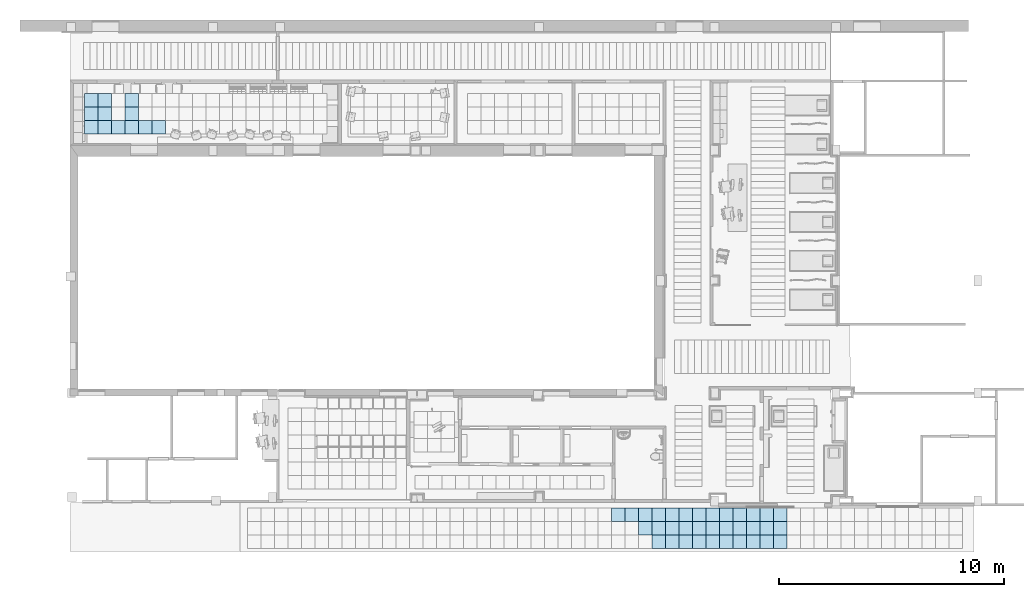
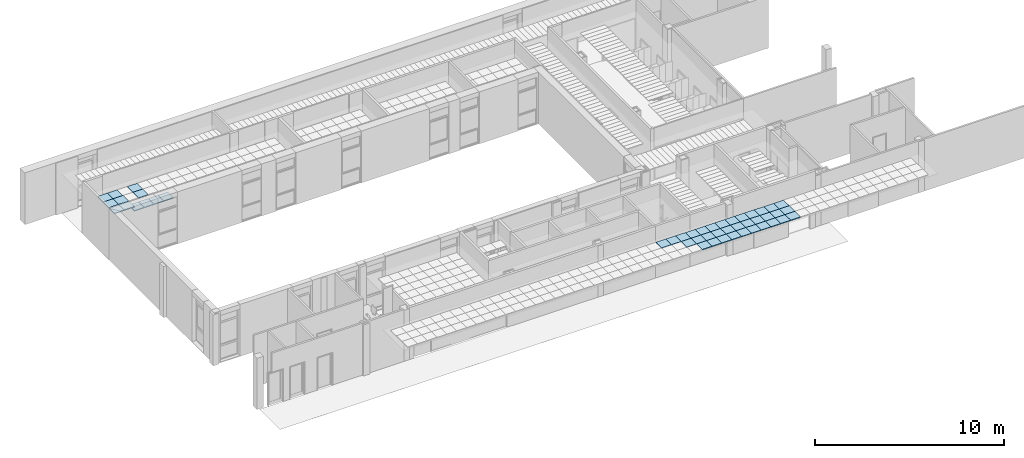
# One storey, part 17 of 68: 46 slabs.
"""IFC2X3 building model written with IfcOpenShell, lengths in millimetres."""

from ifc_helpers import new_model, entity, si_unit, converted_unit, derived_unit, money_unit, direction, frame, origin_with_axes, place, context, subcontext, project, spatial, polyline, outline, extrude, material, layer, layer_set, layer_usage, type_object, element, save


model = new_model("IFC2X3")

# Units and contexts
model_context = context("Model", 3, precision=0.01, world=origin_with_axes(), true_north=direction((0.0, 1.0)))
body_context = subcontext(model_context, "Body", "Model", "MODEL_VIEW")
ifc_project = project(units=[si_unit("LENGTHUNIT", "METRE", prefix="MILLI"), si_unit("AREAUNIT", "SQUARE_METRE"), si_unit("VOLUMEUNIT", "CUBIC_METRE"), converted_unit("PLANEANGLEUNIT", "DEGREE", entity("IfcPlaneAngleMeasure", 0.0174532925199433), si_unit("PLANEANGLEUNIT", "RADIAN"), dimensions=[0, 0, 0, 0, 0, 0, 0]), money_unit("USD"), converted_unit("TIMEUNIT", "Year", entity("IfcTimeMeasure", 31557600.0), si_unit("TIMEUNIT", "SECOND"), dimensions=[0, 0, 1, 0, 0, 0, 0]), si_unit("MASSUNIT", "GRAM", prefix="KILO"), si_unit("THERMODYNAMICTEMPERATUREUNIT", "DEGREE_CELSIUS"), si_unit("LUMINOUSINTENSITYUNIT", "LUMEN"), si_unit("ENERGYUNIT", "JOULE", prefix="MEGA"), derived_unit("THERMALCONDUCTANCEUNIT", [(si_unit("POWERUNIT", "WATT"), 1), (si_unit("LENGTHUNIT", "METRE"), -1), (si_unit("THERMODYNAMICTEMPERATUREUNIT", "KELVIN"), -1)]), derived_unit("SPECIFICHEATCAPACITYUNIT", [(si_unit("ENERGYUNIT", "JOULE"), 1), (si_unit("MASSUNIT", "GRAM", prefix="KILO"), -1), (si_unit("THERMODYNAMICTEMPERATUREUNIT", "KELVIN"), -1)]), derived_unit("MASSDENSITYUNIT", [(si_unit("MASSUNIT", "GRAM", prefix="KILO"), 1), (si_unit("VOLUMEUNIT", "CUBIC_METRE"), -1)])], contexts=[model_context])

# Site, building, storey
site_placement = place(None, origin_with_axes())
site = spatial("IfcSite", under=ifc_project, at=site_placement, Name="Sitio", CompositionType="ELEMENT")
building_placement = place(site_placement, origin_with_axes())
building = spatial("IfcBuilding", under=site, at=building_placement, Name="Construcción", CompositionType="ELEMENT")
storey_placement = place(building_placement, origin_with_axes())
storey = spatial("IfcBuildingStorey", under=building, at=storey_placement, Name="PLANTA 1ª", CompositionType="ELEMENT", Elevation=0.0)

# Slabs
ifc_material = material(Name="ARQ_CE217_Armstrong 60x60")
ifc_layer = layer(ifc_material, 50.0, ventilated="UNKNOWN")
ifc_layer_set = layer_set([ifc_layer], Name="ARQ_CE217_Armstrong 60x60 50")
ifc_layer_usage_1 = layer_usage(ifc_layer_set, "AXIS3", "NEGATIVE", 50.0)
slab_type = type_object("IfcSlabType", Name="ARQ_CE217_Armstrong 60x60 50", PredefinedType="NOTDEFINED")
slab_1_placement = place(storey_placement, frame((-25020.63976804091, -687.0613838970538, 2250.0), z_axis=(0.0, 0.0, 1.0), x_axis=(1.0, 0.0, 0.0)))
element("IfcSlab", 1, at=slab_1_placement, inside=storey, type_object=slab_type, material=ifc_layer_usage_1, Name="SLA - 026", PredefinedType="NOTDEFINED", context=body_context, shape_type="SweptSolid", body=[
    extrude(outline(polyline([(0.0, 0.0), (600.000000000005, 0.0), (600.000000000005, 600.0000000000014), (0.0, 600.0000000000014), (0.0, 0.0)])), frame((0.0, 0.0, -50.0), z_axis=(0.0, 0.0, 1.0), x_axis=(1.0, 0.0, 0.0)), (0.0, 0.0, 1.0), 50.0),
])
ifc_layer_usage_2 = layer_usage(ifc_layer_set, "AXIS3", "NEGATIVE", 50.0)
slab_2_placement = place(storey_placement, frame((-24420.6397680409, -687.0613838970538, 2250.0), z_axis=(0.0, 0.0, 1.0), x_axis=(1.0, 0.0, 0.0)))
element("IfcSlab", 2, at=slab_2_placement, inside=storey, type_object=slab_type, material=ifc_layer_usage_2, Name="SLA - 026", PredefinedType="NOTDEFINED", context=body_context, shape_type="SweptSolid", body=[
    extrude(outline(polyline([(0.0, 0.0), (599.9999999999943, 0.0), (599.9999999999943, 600.0000000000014), (0.0, 600.0000000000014), (0.0, 0.0)])), frame((0.0, 0.0, -50.0), z_axis=(0.0, 0.0, 1.0), x_axis=(1.0, 0.0, 0.0)), (0.0, 0.0, 1.0), 50.0),
])
ifc_layer_usage_3 = layer_usage(ifc_layer_set, "AXIS3", "NEGATIVE", 50.0)
slab_3_placement = place(storey_placement, frame((-25620.63976804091, -687.0613838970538, 2250.0), z_axis=(0.0, 0.0, 1.0), x_axis=(1.0, 0.0, 0.0)))
element("IfcSlab", 3, at=slab_3_placement, inside=storey, type_object=slab_type, material=ifc_layer_usage_3, Name="SLA - 026", PredefinedType="NOTDEFINED", context=body_context, shape_type="SweptSolid", body=[
    extrude(outline(polyline([(0.0, 0.0), (600.0000000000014, 0.0), (600.0000000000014, 600.0000000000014), (0.0, 600.0000000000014), (0.0, 0.0)])), frame((0.0, 0.0, -50.0), z_axis=(0.0, 0.0, 1.0), x_axis=(1.0, 0.0, 0.0)), (0.0, 0.0, 1.0), 50.0),
])
ifc_layer_usage_4 = layer_usage(ifc_layer_set, "AXIS3", "NEGATIVE", 50.0)
slab_4_placement = place(storey_placement, frame((-25620.63976804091, 512.938616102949, 2500.0), z_axis=(0.0, 0.0, 1.0), x_axis=(1.0, 0.0, 0.0)))
element("IfcSlab", 4, at=slab_4_placement, inside=storey, type_object=slab_type, material=ifc_layer_usage_4, Name="SLA - 026", PredefinedType="NOTDEFINED", context=body_context, shape_type="SweptSolid", body=[
    extrude(outline(polyline([(0.0, 0.0), (600.0000000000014, 0.0), (600.0000000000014, 600.0000000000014), (0.0, 600.0000000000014), (0.0, 0.0)])), frame((0.0, 0.0, -50.0), z_axis=(0.0, 0.0, 1.0), x_axis=(1.0, 0.0, 0.0)), (0.0, 0.0, 1.0), 50.0),
])
ifc_layer_usage_5 = layer_usage(ifc_layer_set, "AXIS3", "NEGATIVE", 50.0)
slab_5_placement = place(storey_placement, frame((-25620.63976804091, -87.06138389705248, 2500.0), z_axis=(0.0, 0.0, 1.0), x_axis=(1.0, 0.0, 0.0)))
element("IfcSlab", 5, at=slab_5_placement, inside=storey, type_object=slab_type, material=ifc_layer_usage_5, Name="SLA - 026", PredefinedType="NOTDEFINED", context=body_context, shape_type="SweptSolid", body=[
    extrude(outline(polyline([(0.0, 0.0), (600.0000000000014, 0.0), (600.0000000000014, 600.0000000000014), (0.0, 600.0000000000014), (0.0, 0.0)])), frame((0.0, 0.0, -50.0), z_axis=(0.0, 0.0, 1.0), x_axis=(1.0, 0.0, 0.0)), (0.0, 0.0, 1.0), 50.0),
])
ifc_layer_usage_6 = layer_usage(ifc_layer_set, "AXIS3", "NEGATIVE", 50.0)
slab_6_placement = place(storey_placement, frame((-26820.6397680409, -687.0613838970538, 2500.0), z_axis=(0.0, 0.0, 1.0), x_axis=(1.0, 0.0, 0.0)))
element("IfcSlab", 6, at=slab_6_placement, inside=storey, type_object=slab_type, material=ifc_layer_usage_6, Name="SLA - 026", PredefinedType="NOTDEFINED", context=body_context, shape_type="SweptSolid", body=[
    extrude(outline(polyline([(0.0, 0.0), (600.0000000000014, 0.0), (600.0000000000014, 600.0000000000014), (0.0, 600.0000000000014), (0.0, 0.0)])), frame((0.0, 0.0, -50.0), z_axis=(0.0, 0.0, 1.0), x_axis=(1.0, 0.0, 0.0)), (0.0, 0.0, 1.0), 50.0),
])
ifc_layer_usage_7 = layer_usage(ifc_layer_set, "AXIS3", "NEGATIVE", 50.0)
slab_7_placement = place(storey_placement, frame((-27420.6397680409, -87.06138389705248, 2500.0), z_axis=(0.0, 0.0, 1.0), x_axis=(1.0, 0.0, 0.0)))
element("IfcSlab", 7, at=slab_7_placement, inside=storey, type_object=slab_type, material=ifc_layer_usage_7, Name="SLA - 026", PredefinedType="NOTDEFINED", context=body_context, shape_type="SweptSolid", body=[
    extrude(outline(polyline([(0.0, 0.0), (600.0000000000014, 0.0), (600.0000000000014, 600.0000000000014), (0.0, 600.0000000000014), (0.0, 0.0)])), frame((0.0, 0.0, -50.0), z_axis=(0.0, 0.0, 1.0), x_axis=(1.0, 0.0, 0.0)), (0.0, 0.0, 1.0), 50.0),
])
ifc_layer_usage_8 = layer_usage(ifc_layer_set, "AXIS3", "NEGATIVE", 50.0)
slab_8_placement = place(storey_placement, frame((-26820.6397680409, -87.06138389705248, 2500.0), z_axis=(0.0, 0.0, 1.0), x_axis=(1.0, 0.0, 0.0)))
element("IfcSlab", 8, at=slab_8_placement, inside=storey, type_object=slab_type, material=ifc_layer_usage_8, Name="SLA - 026", PredefinedType="NOTDEFINED", context=body_context, shape_type="SweptSolid", body=[
    extrude(outline(polyline([(0.0, 0.0), (600.0000000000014, 0.0), (600.0000000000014, 600.0000000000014), (0.0, 600.0000000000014), (0.0, 0.0)])), frame((0.0, 0.0, -50.0), z_axis=(0.0, 0.0, 1.0), x_axis=(1.0, 0.0, 0.0)), (0.0, 0.0, 1.0), 50.0),
])
ifc_layer_usage_9 = layer_usage(ifc_layer_set, "AXIS3", "NEGATIVE", 50.0)
slab_9_placement = place(storey_placement, frame((-27420.6397680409, 512.938616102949, 2500.0), z_axis=(0.0, 0.0, 1.0), x_axis=(1.0, 0.0, 0.0)))
element("IfcSlab", 9, at=slab_9_placement, inside=storey, type_object=slab_type, material=ifc_layer_usage_9, Name="SLA - 026", PredefinedType="NOTDEFINED", context=body_context, shape_type="SweptSolid", body=[
    extrude(outline(polyline([(0.0, 0.0), (600.0000000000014, 0.0), (600.0000000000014, 600.0000000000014), (0.0, 600.0000000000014), (0.0, 0.0)])), frame((0.0, 0.0, -50.0), z_axis=(0.0, 0.0, 1.0), x_axis=(1.0, 0.0, 0.0)), (0.0, 0.0, 1.0), 50.0),
])
ifc_layer_usage_10 = layer_usage(ifc_layer_set, "AXIS3", "NEGATIVE", 50.0)
slab_10_placement = place(storey_placement, frame((-27420.6397680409, -687.0613838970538, 2500.0), z_axis=(0.0, 0.0, 1.0), x_axis=(1.0, 0.0, 0.0)))
element("IfcSlab", 10, at=slab_10_placement, inside=storey, type_object=slab_type, material=ifc_layer_usage_10, Name="SLA - 026", PredefinedType="NOTDEFINED", context=body_context, shape_type="SweptSolid", body=[
    extrude(outline(polyline([(0.0, 0.0), (600.0000000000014, 0.0), (600.0000000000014, 600.0000000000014), (0.0, 600.0000000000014), (0.0, 0.0)])), frame((0.0, 0.0, -50.0), z_axis=(0.0, 0.0, 1.0), x_axis=(1.0, 0.0, 0.0)), (0.0, 0.0, 1.0), 50.0),
])
ifc_layer_usage_11 = layer_usage(ifc_layer_set, "AXIS3", "NEGATIVE", 50.0)
slab_11_placement = place(storey_placement, frame((-26220.6397680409, -687.0613838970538, 2250.0), z_axis=(0.0, 0.0, 1.0), x_axis=(1.0, 0.0, 0.0)))
element("IfcSlab", 11, at=slab_11_placement, inside=storey, type_object=slab_type, material=ifc_layer_usage_11, Name="SLA - 026", PredefinedType="NOTDEFINED", context=body_context, shape_type="SweptSolid", body=[
    extrude(outline(polyline([(0.0, 0.0), (599.9999999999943, 0.0), (599.9999999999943, 600.0000000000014), (0.0, 600.0000000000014), (0.0, 0.0)])), frame((0.0, 0.0, -50.0), z_axis=(0.0, 0.0, 1.0), x_axis=(1.0, 0.0, 0.0)), (0.0, 0.0, 1.0), 50.0),
])
ifc_layer_usage_12 = layer_usage(ifc_layer_set, "AXIS3", "NEGATIVE", 50.0)
slab_12_placement = place(storey_placement, frame((-26820.6397680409, 512.938616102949, 2500.0), z_axis=(0.0, 0.0, 1.0), x_axis=(1.0, 0.0, 0.0)))
element("IfcSlab", 12, at=slab_12_placement, inside=storey, type_object=slab_type, material=ifc_layer_usage_12, Name="SLA - 026", PredefinedType="NOTDEFINED", context=body_context, shape_type="SweptSolid", body=[
    extrude(outline(polyline([(0.0, 0.0), (600.0000000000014, 0.0), (600.0000000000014, 600.0000000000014), (0.0, 600.0000000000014), (0.0, 0.0)])), frame((0.0, 0.0, -50.0), z_axis=(0.0, 0.0, 1.0), x_axis=(1.0, 0.0, 0.0)), (0.0, 0.0, 1.0), 50.0),
])
ifc_layer_usage_13 = layer_usage(ifc_layer_set, "AXIS3", "NEGATIVE", 50.0)
slab_13_placement = place(storey_placement, frame((-3969.703283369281, -17921.97576450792, 2500.0), z_axis=(0.0, 0.0, 1.0), x_axis=(1.0, 0.0, 0.0)))
element("IfcSlab", 13, at=slab_13_placement, inside=storey, type_object=slab_type, material=ifc_layer_usage_13, Name="SLA - 026", PredefinedType="NOTDEFINED", context=body_context, shape_type="SweptSolid", body=[
    extrude(outline(polyline([(0.0, 0.0), (600.0000000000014, 0.0), (600.0000000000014, 600.0000000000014), (0.0, 600.0000000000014), (0.0, 0.0)])), frame((0.0, 0.0, -50.0), z_axis=(0.0, 0.0, 1.0), x_axis=(1.0, 0.0, 0.0)), (0.0, 0.0, 1.0), 50.0),
])
ifc_layer_usage_14 = layer_usage(ifc_layer_set, "AXIS3", "NEGATIVE", 50.0)
slab_14_placement = place(storey_placement, frame((-3369.70328336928, -17921.97576450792, 2500.0), z_axis=(0.0, 0.0, 1.0), x_axis=(1.0, 0.0, 0.0)))
element("IfcSlab", 14, at=slab_14_placement, inside=storey, type_object=slab_type, material=ifc_layer_usage_14, Name="SLA - 026", PredefinedType="NOTDEFINED", context=body_context, shape_type="SweptSolid", body=[
    extrude(outline(polyline([(0.0, 0.0), (600.0000000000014, 0.0), (600.0000000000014, 600.0000000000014), (0.0, 600.0000000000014), (0.0, 0.0)])), frame((0.0, 0.0, -50.0), z_axis=(0.0, 0.0, 1.0), x_axis=(1.0, 0.0, 0.0)), (0.0, 0.0, 1.0), 50.0),
])
ifc_layer_usage_15 = layer_usage(ifc_layer_set, "AXIS3", "NEGATIVE", 50.0)
slab_15_placement = place(storey_placement, frame((-2769.703283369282, -18521.97576450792, 2500.0), z_axis=(0.0, 0.0, 1.0), x_axis=(1.0, 0.0, 0.0)))
element("IfcSlab", 15, at=slab_15_placement, inside=storey, type_object=slab_type, material=ifc_layer_usage_15, Name="SLA - 026", PredefinedType="NOTDEFINED", context=body_context, shape_type="SweptSolid", body=[
    extrude(outline(polyline([(0.0, 0.0), (600.0000000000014, 0.0), (600.0000000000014, 600.0000000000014), (0.0, 600.0000000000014), (0.0, 0.0)])), frame((0.0, 0.0, -50.0), z_axis=(0.0, 0.0, 1.0), x_axis=(1.0, 0.0, 0.0)), (0.0, 0.0, 1.0), 50.0),
])
ifc_layer_usage_16 = layer_usage(ifc_layer_set, "AXIS3", "NEGATIVE", 50.0)
slab_16_placement = place(storey_placement, frame((-2169.70328336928, -19121.97576450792, 2500.0), z_axis=(0.0, 0.0, 1.0), x_axis=(1.0, 0.0, 0.0)))
element("IfcSlab", 16, at=slab_16_placement, inside=storey, type_object=slab_type, material=ifc_layer_usage_16, Name="SLA - 026", PredefinedType="NOTDEFINED", context=body_context, shape_type="SweptSolid", body=[
    extrude(outline(polyline([(0.0, 0.0), (600.0000000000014, 0.0), (600.0000000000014, 600.0000000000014), (0.0, 600.0000000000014), (0.0, 0.0)])), frame((0.0, 0.0, -50.0), z_axis=(0.0, 0.0, 1.0), x_axis=(1.0, 0.0, 0.0)), (0.0, 0.0, 1.0), 50.0),
])
ifc_layer_usage_17 = layer_usage(ifc_layer_set, "AXIS3", "NEGATIVE", 50.0)
slab_17_placement = place(storey_placement, frame((-2169.70328336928, -18521.97576450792, 2500.0), z_axis=(0.0, 0.0, 1.0), x_axis=(1.0, 0.0, 0.0)))
element("IfcSlab", 17, at=slab_17_placement, inside=storey, type_object=slab_type, material=ifc_layer_usage_17, Name="SLA - 026", PredefinedType="NOTDEFINED", context=body_context, shape_type="SweptSolid", body=[
    extrude(outline(polyline([(0.0, 0.0), (600.0000000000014, 0.0), (600.0000000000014, 600.0000000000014), (0.0, 600.0000000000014), (0.0, 0.0)])), frame((0.0, 0.0, -50.0), z_axis=(0.0, 0.0, 1.0), x_axis=(1.0, 0.0, 0.0)), (0.0, 0.0, 1.0), 50.0),
])
ifc_layer_usage_18 = layer_usage(ifc_layer_set, "AXIS3", "NEGATIVE", 50.0)
slab_18_placement = place(storey_placement, frame((-2169.70328336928, -17921.97576450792, 2500.0), z_axis=(0.0, 0.0, 1.0), x_axis=(1.0, 0.0, 0.0)))
element("IfcSlab", 18, at=slab_18_placement, inside=storey, type_object=slab_type, material=ifc_layer_usage_18, Name="SLA - 026", PredefinedType="NOTDEFINED", context=body_context, shape_type="SweptSolid", body=[
    extrude(outline(polyline([(0.0, 0.0), (600.0000000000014, 0.0), (600.0000000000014, 600.0000000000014), (0.0, 600.0000000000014), (0.0, 0.0)])), frame((0.0, 0.0, -50.0), z_axis=(0.0, 0.0, 1.0), x_axis=(1.0, 0.0, 0.0)), (0.0, 0.0, 1.0), 50.0),
])
ifc_layer_usage_19 = layer_usage(ifc_layer_set, "AXIS3", "NEGATIVE", 50.0)
slab_19_placement = place(storey_placement, frame((-1569.703283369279, -19121.97576450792, 2500.0), z_axis=(0.0, 0.0, 1.0), x_axis=(1.0, 0.0, 0.0)))
element("IfcSlab", 19, at=slab_19_placement, inside=storey, type_object=slab_type, material=ifc_layer_usage_19, Name="SLA - 026", PredefinedType="NOTDEFINED", context=body_context, shape_type="SweptSolid", body=[
    extrude(outline(polyline([(0.0, 0.0), (600.0000000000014, 0.0), (600.0000000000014, 600.0000000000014), (0.0, 600.0000000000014), (0.0, 0.0)])), frame((0.0, 0.0, -50.0), z_axis=(0.0, 0.0, 1.0), x_axis=(1.0, 0.0, 0.0)), (0.0, 0.0, 1.0), 50.0),
])
ifc_layer_usage_20 = layer_usage(ifc_layer_set, "AXIS3", "NEGATIVE", 50.0)
slab_20_placement = place(storey_placement, frame((-1569.703283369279, -18521.97576450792, 2500.0), z_axis=(0.0, 0.0, 1.0), x_axis=(1.0, 0.0, 0.0)))
element("IfcSlab", 20, at=slab_20_placement, inside=storey, type_object=slab_type, material=ifc_layer_usage_20, Name="SLA - 026", PredefinedType="NOTDEFINED", context=body_context, shape_type="SweptSolid", body=[
    extrude(outline(polyline([(0.0, 0.0), (600.0000000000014, 0.0), (600.0000000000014, 600.0000000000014), (0.0, 600.0000000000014), (0.0, 0.0)])), frame((0.0, 0.0, -50.0), z_axis=(0.0, 0.0, 1.0), x_axis=(1.0, 0.0, 0.0)), (0.0, 0.0, 1.0), 50.0),
])
ifc_layer_usage_21 = layer_usage(ifc_layer_set, "AXIS3", "NEGATIVE", 50.0)
slab_21_placement = place(storey_placement, frame((-1569.703283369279, -17921.97576450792, 2500.0), z_axis=(0.0, 0.0, 1.0), x_axis=(1.0, 0.0, 0.0)))
element("IfcSlab", 21, at=slab_21_placement, inside=storey, type_object=slab_type, material=ifc_layer_usage_21, Name="SLA - 026", PredefinedType="NOTDEFINED", context=body_context, shape_type="SweptSolid", body=[
    extrude(outline(polyline([(0.0, 0.0), (600.0000000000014, 0.0), (600.0000000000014, 600.0000000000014), (0.0, 600.0000000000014), (0.0, 0.0)])), frame((0.0, 0.0, -50.0), z_axis=(0.0, 0.0, 1.0), x_axis=(1.0, 0.0, 0.0)), (0.0, 0.0, 1.0), 50.0),
])
ifc_layer_usage_22 = layer_usage(ifc_layer_set, "AXIS3", "NEGATIVE", 50.0)
slab_22_placement = place(storey_placement, frame((-969.7032833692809, -19121.97576450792, 2500.0), z_axis=(0.0, 0.0, 1.0), x_axis=(1.0, 0.0, 0.0)))
element("IfcSlab", 22, at=slab_22_placement, inside=storey, type_object=slab_type, material=ifc_layer_usage_22, Name="SLA - 026", PredefinedType="NOTDEFINED", context=body_context, shape_type="SweptSolid", body=[
    extrude(outline(polyline([(0.0, 0.0), (600.0000000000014, 0.0), (600.0000000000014, 600.0000000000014), (0.0, 600.0000000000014), (0.0, 0.0)])), frame((0.0, 0.0, -50.0), z_axis=(0.0, 0.0, 1.0), x_axis=(1.0, 0.0, 0.0)), (0.0, 0.0, 1.0), 50.0),
])
ifc_layer_usage_23 = layer_usage(ifc_layer_set, "AXIS3", "NEGATIVE", 50.0)
slab_23_placement = place(storey_placement, frame((-969.7032833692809, -18521.97576450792, 2500.0), z_axis=(0.0, 0.0, 1.0), x_axis=(1.0, 0.0, 0.0)))
element("IfcSlab", 23, at=slab_23_placement, inside=storey, type_object=slab_type, material=ifc_layer_usage_23, Name="SLA - 026", PredefinedType="NOTDEFINED", context=body_context, shape_type="SweptSolid", body=[
    extrude(outline(polyline([(0.0, 0.0), (600.0000000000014, 0.0), (600.0000000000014, 600.0000000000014), (0.0, 600.0000000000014), (0.0, 0.0)])), frame((0.0, 0.0, -50.0), z_axis=(0.0, 0.0, 1.0), x_axis=(1.0, 0.0, 0.0)), (0.0, 0.0, 1.0), 50.0),
])
ifc_layer_usage_24 = layer_usage(ifc_layer_set, "AXIS3", "NEGATIVE", 50.0)
slab_24_placement = place(storey_placement, frame((-969.7032833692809, -17921.97576450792, 2500.0), z_axis=(0.0, 0.0, 1.0), x_axis=(1.0, 0.0, 0.0)))
element("IfcSlab", 24, at=slab_24_placement, inside=storey, type_object=slab_type, material=ifc_layer_usage_24, Name="SLA - 026", PredefinedType="NOTDEFINED", context=body_context, shape_type="SweptSolid", body=[
    extrude(outline(polyline([(0.0, 0.0), (600.0000000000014, 0.0), (600.0000000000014, 600.0000000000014), (0.0, 600.0000000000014), (0.0, 0.0)])), frame((0.0, 0.0, -50.0), z_axis=(0.0, 0.0, 1.0), x_axis=(1.0, 0.0, 0.0)), (0.0, 0.0, 1.0), 50.0),
])
ifc_layer_usage_25 = layer_usage(ifc_layer_set, "AXIS3", "NEGATIVE", 50.0)
slab_25_placement = place(storey_placement, frame((-369.7032833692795, -19121.97576450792, 2500.0), z_axis=(0.0, 0.0, 1.0), x_axis=(1.0, 0.0, 0.0)))
element("IfcSlab", 25, at=slab_25_placement, inside=storey, type_object=slab_type, material=ifc_layer_usage_25, Name="SLA - 026", PredefinedType="NOTDEFINED", context=body_context, shape_type="SweptSolid", body=[
    extrude(outline(polyline([(0.0, 0.0), (600.0000000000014, 0.0), (600.0000000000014, 600.0000000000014), (0.0, 600.0000000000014), (0.0, 0.0)])), frame((0.0, 0.0, -50.0), z_axis=(0.0, 0.0, 1.0), x_axis=(1.0, 0.0, 0.0)), (0.0, 0.0, 1.0), 50.0),
])
ifc_layer_usage_26 = layer_usage(ifc_layer_set, "AXIS3", "NEGATIVE", 50.0)
slab_26_placement = place(storey_placement, frame((-369.7032833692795, -18521.97576450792, 2500.0), z_axis=(0.0, 0.0, 1.0), x_axis=(1.0, 0.0, 0.0)))
element("IfcSlab", 26, at=slab_26_placement, inside=storey, type_object=slab_type, material=ifc_layer_usage_26, Name="SLA - 026", PredefinedType="NOTDEFINED", context=body_context, shape_type="SweptSolid", body=[
    extrude(outline(polyline([(0.0, 0.0), (600.0000000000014, 0.0), (600.0000000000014, 600.0000000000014), (0.0, 600.0000000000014), (0.0, 0.0)])), frame((0.0, 0.0, -50.0), z_axis=(0.0, 0.0, 1.0), x_axis=(1.0, 0.0, 0.0)), (0.0, 0.0, 1.0), 50.0),
])
ifc_layer_usage_27 = layer_usage(ifc_layer_set, "AXIS3", "NEGATIVE", 50.0)
slab_27_placement = place(storey_placement, frame((-369.7032833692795, -17921.97576450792, 2500.0), z_axis=(0.0, 0.0, 1.0), x_axis=(1.0, 0.0, 0.0)))
element("IfcSlab", 27, at=slab_27_placement, inside=storey, type_object=slab_type, material=ifc_layer_usage_27, Name="SLA - 026", PredefinedType="NOTDEFINED", context=body_context, shape_type="SweptSolid", body=[
    extrude(outline(polyline([(0.0, 0.0), (600.0000000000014, 0.0), (600.0000000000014, 600.0000000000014), (0.0, 600.0000000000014), (0.0, 0.0)])), frame((0.0, 0.0, -50.0), z_axis=(0.0, 0.0, 1.0), x_axis=(1.0, 0.0, 0.0)), (0.0, 0.0, 1.0), 50.0),
])
ifc_layer_usage_28 = layer_usage(ifc_layer_set, "AXIS3", "NEGATIVE", 50.0)
slab_28_placement = place(storey_placement, frame((230.2967166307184, -19121.97576450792, 2500.0), z_axis=(0.0, 0.0, 1.0), x_axis=(1.0, 0.0, 0.0)))
element("IfcSlab", 28, at=slab_28_placement, inside=storey, type_object=slab_type, material=ifc_layer_usage_28, Name="SLA - 026", PredefinedType="NOTDEFINED", context=body_context, shape_type="SweptSolid", body=[
    extrude(outline(polyline([(0.0, 0.0), (600.0000000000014, 0.0), (600.0000000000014, 600.0000000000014), (0.0, 600.0000000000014), (0.0, 0.0)])), frame((0.0, 0.0, -50.0), z_axis=(0.0, 0.0, 1.0), x_axis=(1.0, 0.0, 0.0)), (0.0, 0.0, 1.0), 50.0),
])
ifc_layer_usage_29 = layer_usage(ifc_layer_set, "AXIS3", "NEGATIVE", 50.0)
slab_29_placement = place(storey_placement, frame((230.2967166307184, -18521.97576450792, 2500.0), z_axis=(0.0, 0.0, 1.0), x_axis=(1.0, 0.0, 0.0)))
element("IfcSlab", 29, at=slab_29_placement, inside=storey, type_object=slab_type, material=ifc_layer_usage_29, Name="SLA - 026", PredefinedType="NOTDEFINED", context=body_context, shape_type="SweptSolid", body=[
    extrude(outline(polyline([(0.0, 0.0), (600.0000000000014, 0.0), (600.0000000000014, 600.0000000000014), (0.0, 600.0000000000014), (0.0, 0.0)])), frame((0.0, 0.0, -50.0), z_axis=(0.0, 0.0, 1.0), x_axis=(1.0, 0.0, 0.0)), (0.0, 0.0, 1.0), 50.0),
])
ifc_layer_usage_30 = layer_usage(ifc_layer_set, "AXIS3", "NEGATIVE", 50.0)
slab_30_placement = place(storey_placement, frame((230.2967166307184, -17921.97576450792, 2500.0), z_axis=(0.0, 0.0, 1.0), x_axis=(1.0, 0.0, 0.0)))
element("IfcSlab", 30, at=slab_30_placement, inside=storey, type_object=slab_type, material=ifc_layer_usage_30, Name="SLA - 026", PredefinedType="NOTDEFINED", context=body_context, shape_type="SweptSolid", body=[
    extrude(outline(polyline([(0.0, 0.0), (600.0000000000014, 0.0), (600.0000000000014, 600.0000000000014), (0.0, 600.0000000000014), (0.0, 0.0)])), frame((0.0, 0.0, -50.0), z_axis=(0.0, 0.0, 1.0), x_axis=(1.0, 0.0, 0.0)), (0.0, 0.0, 1.0), 50.0),
])
ifc_layer_usage_31 = layer_usage(ifc_layer_set, "AXIS3", "NEGATIVE", 50.0)
slab_31_placement = place(storey_placement, frame((830.2967166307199, -19121.97576450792, 2500.0), z_axis=(0.0, 0.0, 1.0), x_axis=(1.0, 0.0, 0.0)))
element("IfcSlab", 31, at=slab_31_placement, inside=storey, type_object=slab_type, material=ifc_layer_usage_31, Name="SLA - 026", PredefinedType="NOTDEFINED", context=body_context, shape_type="SweptSolid", body=[
    extrude(outline(polyline([(0.0, 0.0), (600.0000000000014, 0.0), (600.0000000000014, 600.0000000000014), (0.0, 600.0000000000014), (0.0, 0.0)])), frame((0.0, 0.0, -50.0), z_axis=(0.0, 0.0, 1.0), x_axis=(1.0, 0.0, 0.0)), (0.0, 0.0, 1.0), 50.0),
])
ifc_layer_usage_32 = layer_usage(ifc_layer_set, "AXIS3", "NEGATIVE", 50.0)
slab_32_placement = place(storey_placement, frame((830.2967166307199, -18521.97576450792, 2500.0), z_axis=(0.0, 0.0, 1.0), x_axis=(1.0, 0.0, 0.0)))
element("IfcSlab", 32, at=slab_32_placement, inside=storey, type_object=slab_type, material=ifc_layer_usage_32, Name="SLA - 026", PredefinedType="NOTDEFINED", context=body_context, shape_type="SweptSolid", body=[
    extrude(outline(polyline([(0.0, 0.0), (600.0000000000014, 0.0), (600.0000000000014, 600.0000000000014), (0.0, 600.0000000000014), (0.0, 0.0)])), frame((0.0, 0.0, -50.0), z_axis=(0.0, 0.0, 1.0), x_axis=(1.0, 0.0, 0.0)), (0.0, 0.0, 1.0), 50.0),
])
ifc_layer_usage_33 = layer_usage(ifc_layer_set, "AXIS3", "NEGATIVE", 50.0)
slab_33_placement = place(storey_placement, frame((830.2967166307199, -17921.97576450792, 2500.0), z_axis=(0.0, 0.0, 1.0), x_axis=(1.0, 0.0, 0.0)))
element("IfcSlab", 33, at=slab_33_placement, inside=storey, type_object=slab_type, material=ifc_layer_usage_33, Name="SLA - 026", PredefinedType="NOTDEFINED", context=body_context, shape_type="SweptSolid", body=[
    extrude(outline(polyline([(0.0, 0.0), (600.0000000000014, 0.0), (600.0000000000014, 600.0000000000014), (0.0, 600.0000000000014), (0.0, 0.0)])), frame((0.0, 0.0, -50.0), z_axis=(0.0, 0.0, 1.0), x_axis=(1.0, 0.0, 0.0)), (0.0, 0.0, 1.0), 50.0),
])
ifc_layer_usage_34 = layer_usage(ifc_layer_set, "AXIS3", "NEGATIVE", 50.0)
slab_34_placement = place(storey_placement, frame((1430.296716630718, -19121.97576450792, 2500.0), z_axis=(0.0, 0.0, 1.0), x_axis=(1.0, 0.0, 0.0)))
element("IfcSlab", 34, at=slab_34_placement, inside=storey, type_object=slab_type, material=ifc_layer_usage_34, Name="SLA - 026", PredefinedType="NOTDEFINED", context=body_context, shape_type="SweptSolid", body=[
    extrude(outline(polyline([(0.0, 0.0), (600.0000000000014, 0.0), (600.0000000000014, 600.0000000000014), (0.0, 600.0000000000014), (0.0, 0.0)])), frame((0.0, 0.0, -50.0), z_axis=(0.0, 0.0, 1.0), x_axis=(1.0, 0.0, 0.0)), (0.0, 0.0, 1.0), 50.0),
])
ifc_layer_usage_35 = layer_usage(ifc_layer_set, "AXIS3", "NEGATIVE", 50.0)
slab_35_placement = place(storey_placement, frame((1430.296716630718, -18521.97576450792, 2500.0), z_axis=(0.0, 0.0, 1.0), x_axis=(1.0, 0.0, 0.0)))
element("IfcSlab", 35, at=slab_35_placement, inside=storey, type_object=slab_type, material=ifc_layer_usage_35, Name="SLA - 026", PredefinedType="NOTDEFINED", context=body_context, shape_type="SweptSolid", body=[
    extrude(outline(polyline([(0.0, 0.0), (600.0000000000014, 0.0), (600.0000000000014, 600.0000000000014), (0.0, 600.0000000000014), (0.0, 0.0)])), frame((0.0, 0.0, -50.0), z_axis=(0.0, 0.0, 1.0), x_axis=(1.0, 0.0, 0.0)), (0.0, 0.0, 1.0), 50.0),
])
ifc_layer_usage_36 = layer_usage(ifc_layer_set, "AXIS3", "NEGATIVE", 50.0)
slab_36_placement = place(storey_placement, frame((1430.296716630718, -17921.97576450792, 2500.0), z_axis=(0.0, 0.0, 1.0), x_axis=(1.0, 0.0, 0.0)))
element("IfcSlab", 36, at=slab_36_placement, inside=storey, type_object=slab_type, material=ifc_layer_usage_36, Name="SLA - 026", PredefinedType="NOTDEFINED", context=body_context, shape_type="SweptSolid", body=[
    extrude(outline(polyline([(0.0, 0.0), (600.0000000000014, 0.0), (600.0000000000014, 600.0000000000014), (0.0, 600.0000000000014), (0.0, 0.0)])), frame((0.0, 0.0, -50.0), z_axis=(0.0, 0.0, 1.0), x_axis=(1.0, 0.0, 0.0)), (0.0, 0.0, 1.0), 50.0),
])
ifc_layer_usage_37 = layer_usage(ifc_layer_set, "AXIS3", "NEGATIVE", 50.0)
slab_37_placement = place(storey_placement, frame((2030.296716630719, -19121.97576450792, 2500.0), z_axis=(0.0, 0.0, 1.0), x_axis=(1.0, 0.0, 0.0)))
element("IfcSlab", 37, at=slab_37_placement, inside=storey, type_object=slab_type, material=ifc_layer_usage_37, Name="SLA - 026", PredefinedType="NOTDEFINED", context=body_context, shape_type="SweptSolid", body=[
    extrude(outline(polyline([(0.0, 0.0), (600.0000000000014, 0.0), (600.0000000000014, 600.0000000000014), (0.0, 600.0000000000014), (0.0, 0.0)])), frame((0.0, 0.0, -50.0), z_axis=(0.0, 0.0, 1.0), x_axis=(1.0, 0.0, 0.0)), (0.0, 0.0, 1.0), 50.0),
])
ifc_layer_usage_38 = layer_usage(ifc_layer_set, "AXIS3", "NEGATIVE", 50.0)
slab_38_placement = place(storey_placement, frame((2030.296716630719, -18521.97576450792, 2500.0), z_axis=(0.0, 0.0, 1.0), x_axis=(1.0, 0.0, 0.0)))
element("IfcSlab", 38, at=slab_38_placement, inside=storey, type_object=slab_type, material=ifc_layer_usage_38, Name="SLA - 026", PredefinedType="NOTDEFINED", context=body_context, shape_type="SweptSolid", body=[
    extrude(outline(polyline([(0.0, 0.0), (600.0000000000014, 0.0), (600.0000000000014, 600.0000000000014), (0.0, 600.0000000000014), (0.0, 0.0)])), frame((0.0, 0.0, -50.0), z_axis=(0.0, 0.0, 1.0), x_axis=(1.0, 0.0, 0.0)), (0.0, 0.0, 1.0), 50.0),
])
ifc_layer_usage_39 = layer_usage(ifc_layer_set, "AXIS3", "NEGATIVE", 50.0)
slab_39_placement = place(storey_placement, frame((2030.296716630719, -17921.97576450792, 2500.0), z_axis=(0.0, 0.0, 1.0), x_axis=(1.0, 0.0, 0.0)))
element("IfcSlab", 39, at=slab_39_placement, inside=storey, type_object=slab_type, material=ifc_layer_usage_39, Name="SLA - 026", PredefinedType="NOTDEFINED", context=body_context, shape_type="SweptSolid", body=[
    extrude(outline(polyline([(0.0, 0.0), (600.0000000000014, 0.0), (600.0000000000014, 600.0000000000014), (0.0, 600.0000000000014), (0.0, 0.0)])), frame((0.0, 0.0, -50.0), z_axis=(0.0, 0.0, 1.0), x_axis=(1.0, 0.0, 0.0)), (0.0, 0.0, 1.0), 50.0),
])
ifc_layer_usage_40 = layer_usage(ifc_layer_set, "AXIS3", "NEGATIVE", 50.0)
slab_40_placement = place(storey_placement, frame((2630.29671663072, -19121.97576450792, 2500.0), z_axis=(0.0, 0.0, 1.0), x_axis=(1.0, 0.0, 0.0)))
element("IfcSlab", 40, at=slab_40_placement, inside=storey, type_object=slab_type, material=ifc_layer_usage_40, Name="SLA - 026", PredefinedType="NOTDEFINED", context=body_context, shape_type="SweptSolid", body=[
    extrude(outline(polyline([(0.0, 0.0), (600.0000000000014, 0.0), (600.0000000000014, 600.0000000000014), (0.0, 600.0000000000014), (0.0, 0.0)])), frame((0.0, 0.0, -50.0), z_axis=(0.0, 0.0, 1.0), x_axis=(1.0, 0.0, 0.0)), (0.0, 0.0, 1.0), 50.0),
])
ifc_layer_usage_41 = layer_usage(ifc_layer_set, "AXIS3", "NEGATIVE", 50.0)
slab_41_placement = place(storey_placement, frame((2630.29671663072, -18521.97576450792, 2500.0), z_axis=(0.0, 0.0, 1.0), x_axis=(1.0, 0.0, 0.0)))
element("IfcSlab", 41, at=slab_41_placement, inside=storey, type_object=slab_type, material=ifc_layer_usage_41, Name="SLA - 026", PredefinedType="NOTDEFINED", context=body_context, shape_type="SweptSolid", body=[
    extrude(outline(polyline([(0.0, 0.0), (600.0000000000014, 0.0), (600.0000000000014, 600.0000000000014), (0.0, 600.0000000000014), (0.0, 0.0)])), frame((0.0, 0.0, -50.0), z_axis=(0.0, 0.0, 1.0), x_axis=(1.0, 0.0, 0.0)), (0.0, 0.0, 1.0), 50.0),
])
ifc_layer_usage_42 = layer_usage(ifc_layer_set, "AXIS3", "NEGATIVE", 50.0)
slab_42_placement = place(storey_placement, frame((2630.29671663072, -17921.97576450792, 2500.0), z_axis=(0.0, 0.0, 1.0), x_axis=(1.0, 0.0, 0.0)))
element("IfcSlab", 42, at=slab_42_placement, inside=storey, type_object=slab_type, material=ifc_layer_usage_42, Name="SLA - 026", PredefinedType="NOTDEFINED", context=body_context, shape_type="SweptSolid", body=[
    extrude(outline(polyline([(0.0, 0.0), (600.0000000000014, 0.0), (600.0000000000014, 600.0000000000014), (0.0, 600.0000000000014), (0.0, 0.0)])), frame((0.0, 0.0, -50.0), z_axis=(0.0, 0.0, 1.0), x_axis=(1.0, 0.0, 0.0)), (0.0, 0.0, 1.0), 50.0),
])
ifc_layer_usage_43 = layer_usage(ifc_layer_set, "AXIS3", "NEGATIVE", 50.0)
slab_43_placement = place(storey_placement, frame((3230.296716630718, -19121.97576450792, 2500.0), z_axis=(0.0, 0.0, 1.0), x_axis=(1.0, 0.0, 0.0)))
element("IfcSlab", 43, at=slab_43_placement, inside=storey, type_object=slab_type, material=ifc_layer_usage_43, Name="SLA - 026", PredefinedType="NOTDEFINED", context=body_context, shape_type="SweptSolid", body=[
    extrude(outline(polyline([(0.0, 0.0), (600.0000000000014, 0.0), (600.0000000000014, 600.0000000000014), (0.0, 600.0000000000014), (0.0, 0.0)])), frame((0.0, 0.0, -50.0), z_axis=(0.0, 0.0, 1.0), x_axis=(1.0, 0.0, 0.0)), (0.0, 0.0, 1.0), 50.0),
])
ifc_layer_usage_44 = layer_usage(ifc_layer_set, "AXIS3", "NEGATIVE", 50.0)
slab_44_placement = place(storey_placement, frame((3230.296716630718, -18521.97576450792, 2500.0), z_axis=(0.0, 0.0, 1.0), x_axis=(1.0, 0.0, 0.0)))
element("IfcSlab", 44, at=slab_44_placement, inside=storey, type_object=slab_type, material=ifc_layer_usage_44, Name="SLA - 026", PredefinedType="NOTDEFINED", context=body_context, shape_type="SweptSolid", body=[
    extrude(outline(polyline([(0.0, 0.0), (600.0000000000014, 0.0), (600.0000000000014, 600.0000000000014), (0.0, 600.0000000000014), (0.0, 0.0)])), frame((0.0, 0.0, -50.0), z_axis=(0.0, 0.0, 1.0), x_axis=(1.0, 0.0, 0.0)), (0.0, 0.0, 1.0), 50.0),
])
ifc_layer_usage_45 = layer_usage(ifc_layer_set, "AXIS3", "NEGATIVE", 50.0)
slab_45_placement = place(storey_placement, frame((3230.296716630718, -17921.97576450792, 2500.0), z_axis=(0.0, 0.0, 1.0), x_axis=(1.0, 0.0, 0.0)))
element("IfcSlab", 45, at=slab_45_placement, inside=storey, type_object=slab_type, material=ifc_layer_usage_45, Name="SLA - 026", PredefinedType="NOTDEFINED", context=body_context, shape_type="SweptSolid", body=[
    extrude(outline(polyline([(0.0, 0.0), (600.0000000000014, 0.0), (600.0000000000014, 600.0000000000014), (0.0, 600.0000000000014), (0.0, 0.0)])), frame((0.0, 0.0, -50.0), z_axis=(0.0, 0.0, 1.0), x_axis=(1.0, 0.0, 0.0)), (0.0, 0.0, 1.0), 50.0),
])
ifc_layer_usage_46 = layer_usage(ifc_layer_set, "AXIS3", "NEGATIVE", 50.0)
slab_46_placement = place(storey_placement, frame((-2769.703283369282, -17921.97576450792, 2500.0), z_axis=(0.0, 0.0, 1.0), x_axis=(1.0, 0.0, 0.0)))
element("IfcSlab", 46, at=slab_46_placement, inside=storey, type_object=slab_type, material=ifc_layer_usage_46, Name="SLA - 026", PredefinedType="NOTDEFINED", context=body_context, shape_type="SweptSolid", body=[
    extrude(outline(polyline([(0.0, 0.0), (600.0000000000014, 0.0), (600.0000000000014, 600.0000000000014), (0.0, 600.0000000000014), (0.0, 0.0)])), frame((0.0, 0.0, -50.0), z_axis=(0.0, 0.0, 1.0), x_axis=(1.0, 0.0, 0.0)), (0.0, 0.0, 1.0), 50.0),
])

save(model, "model.ifc")
